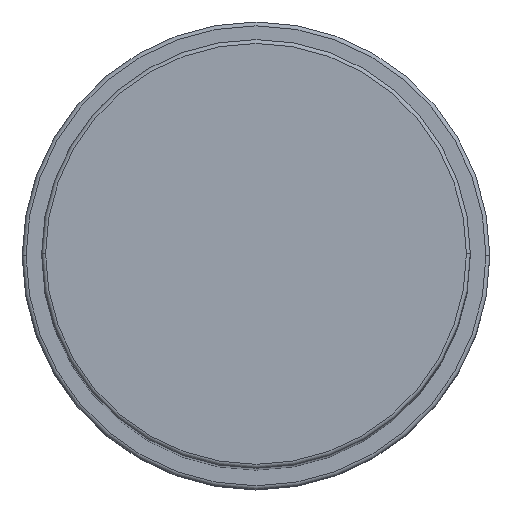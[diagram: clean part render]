
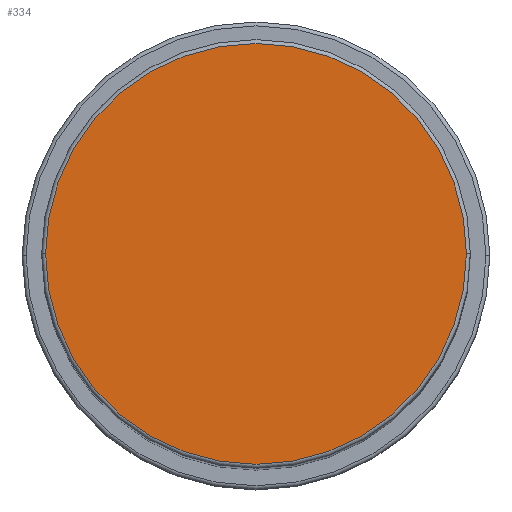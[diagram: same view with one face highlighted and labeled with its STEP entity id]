
A CAD part, top view. The second image highlights one B-rep face of the part: STEP entity #334.
In plain terms, the highlighted planar face has unit normal (0, 0, 1).
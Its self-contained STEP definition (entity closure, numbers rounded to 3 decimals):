
#18 = DIRECTION ( 'NONE',  ( 0., 0., 1. ) ) ;
#140 = CARTESIAN_POINT ( 'NONE',  ( 27., 0., 153. ) ) ;
#154 = CARTESIAN_POINT ( 'NONE',  ( 0., 0., 153. ) ) ;
#295 = EDGE_CURVE ( 'NONE', #1074, #361, #597, .T. ) ;
#319 = PLANE ( 'NONE',  #634 ) ;
#334 = ADVANCED_FACE ( 'NONE', ( #1171 ), #319, .T. ) ;
#361 = VERTEX_POINT ( 'NONE', #1159 ) ;
#397 = DIRECTION ( 'NONE',  ( 1., 0., 0. ) ) ;
#442 = DIRECTION ( 'NONE',  ( 1., 0., 0. ) ) ;
#466 = CIRCLE ( 'NONE', #1202, 27. ) ;
#597 = CIRCLE ( 'NONE', #1580, 27. ) ;
#634 = AXIS2_PLACEMENT_3D ( 'NONE', #154, #18, #397 ) ;
#711 = CARTESIAN_POINT ( 'NONE',  ( 0., 0., 153. ) ) ;
#717 = DIRECTION ( 'NONE',  ( 0., 0., 1. ) ) ;
#738 = EDGE_LOOP ( 'NONE', ( #1524, #1389 ) ) ;
#843 = EDGE_CURVE ( 'NONE', #361, #1074, #466, .T. ) ;
#1074 = VERTEX_POINT ( 'NONE', #140 ) ;
#1159 = CARTESIAN_POINT ( 'NONE',  ( -27., 0., 153. ) ) ;
#1171 = FACE_OUTER_BOUND ( 'NONE', #738, .T. ) ;
#1202 = AXIS2_PLACEMENT_3D ( 'NONE', #711, #717, #442 ) ;
#1385 = DIRECTION ( 'NONE',  ( 1., 0., 0. ) ) ;
#1389 = ORIENTED_EDGE ( 'NONE', *, *, #843, .T. ) ;
#1400 = CARTESIAN_POINT ( 'NONE',  ( 0., 0., 153. ) ) ;
#1524 = ORIENTED_EDGE ( 'NONE', *, *, #295, .T. ) ;
#1535 = DIRECTION ( 'NONE',  ( 0., 0., 1. ) ) ;
#1580 = AXIS2_PLACEMENT_3D ( 'NONE', #1400, #1535, #1385 ) ;
